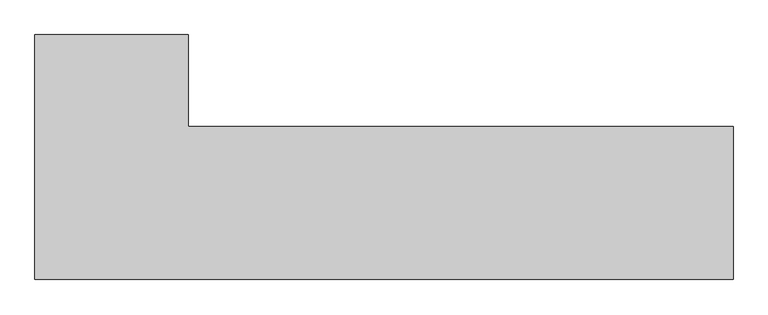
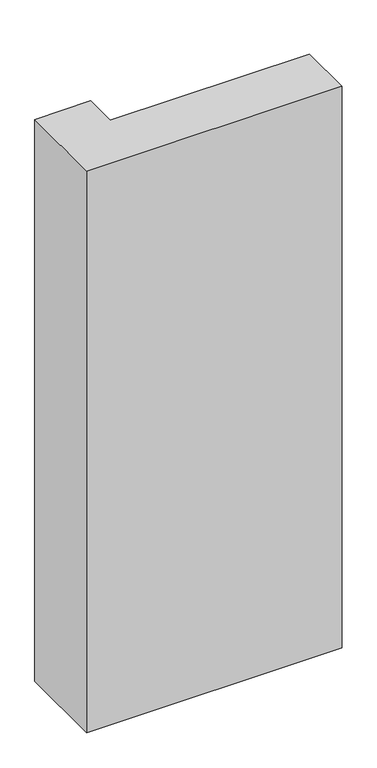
"""IFC4 building model written with IfcOpenShell, lengths in millimetres: column geometry, Columna Estructural Ele : ECO_Ele 40x114x25."""

from ifc_helpers import new_model, si_unit, frame, origin, place, context, project, spatial, polyline, outline, extrude, source, transform, mapped, element, save


def column_97f66a71(model_context):
    return source(origin(), model_context, "Body", "SweptSolid", [
        extrude(outline(polyline([(125.0, 275.0), (125.0, 125.0), (1015.0, 125.0), (1015.0, -125.0), (-125.0, -125.0), (-125.0, 275.0), (125.0, 275.0)])), frame((0.0, 0.0, 8050.0), z_axis=(0.0, 0.0, 1.0), x_axis=(1.0, 0.0, 0.0)), (0.0, 0.0, 1.0), 2650.0),
    ])


if __name__ == "__main__":
    model = new_model("IFC4")
    model_context = context("Model", 3, world=origin())
    ifc_project = project(units=[si_unit("LENGTHUNIT", "METRE", prefix="MILLI")], contexts=[model_context])
    site = spatial("IfcSite", under=ifc_project)
    building = spatial("IfcBuilding", under=site)
    placement = place(None, origin())
    column_shape = column_97f66a71(model_context)
    element("IfcColumn", 1, ObjectType="Columna Estructural Ele : ECO_Ele 40x114x25", at=placement, inside=building, context=model_context, shape_type="MappedRepresentation", body=[
        mapped(column_shape, transform((0.0, 0.0, 0.0), x_axis=(1.0, 0.0, 0.0), y_axis=(0.0, 1.0, 0.0), z_axis=(0.0, 0.0, 1.0))),
    ])
    save(model, "model.ifc")
